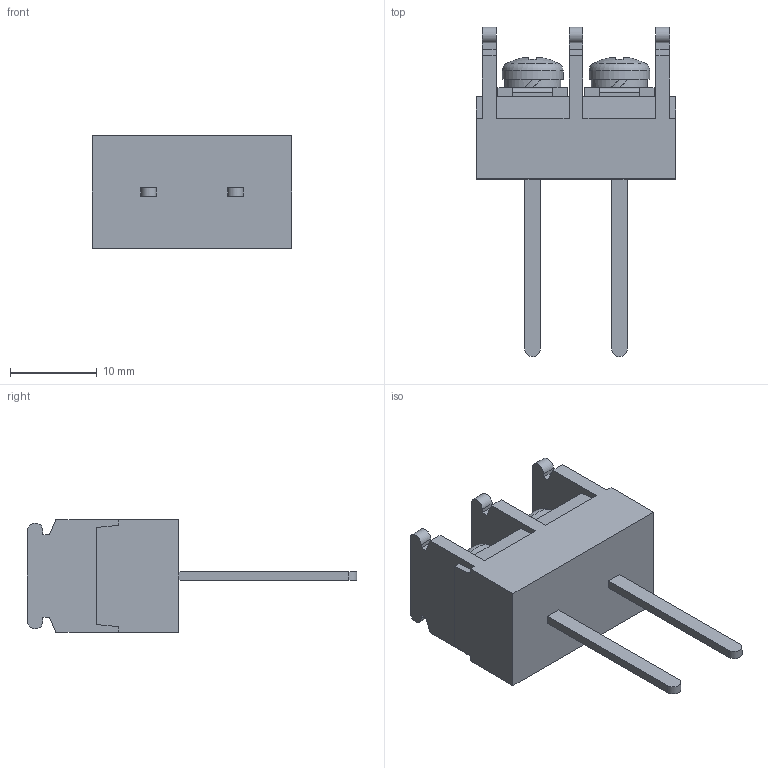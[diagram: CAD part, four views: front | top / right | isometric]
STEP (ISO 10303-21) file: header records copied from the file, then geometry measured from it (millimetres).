
FILE_DESCRIPTION(/* description */ ('Alibre Inc.'),/* implementation_level */ '2;1');
FILE_NAME(/* name */ 'export0',/* time_stamp */ '2015-10-17T19:21:30+09:00',/* author */ (''),/* organization */ (''),/* preprocessor_version */ 'ST-DEVELOPER v14',/* originating_system */ 'Alibre',/* authorisation */ '');
FILE_SCHEMA (('CONFIG_CONTROL_DESIGN'));
Length unit declared in the file: centimetre
Products named in the file (1): ID_1
Bounding box: 23 x 38 x 13 mm (x, y, z)
Volume: 3639.7 mm3; surface area: 2513.4 mm2
Topology: 1 solids, 17 shells, 530 faces, 1404 edges, 934 vertices
Faces by surface type: plane 394, bspline 104, cylinder 18, cone 8, torus 4, sphere 2
Full cylindrical faces by diameter (mm): 4 x2, 6.5 x2, 7 x2
Entity records: 15923 total; most frequent: CARTESIAN_POINT 3835, ORIENTED_EDGE 2780, DIRECTION 1706, EDGE_CURVE 1390, VECTOR 1074, LINE 1074, VERTEX_POINT 928, EDGE_LOOP 576
